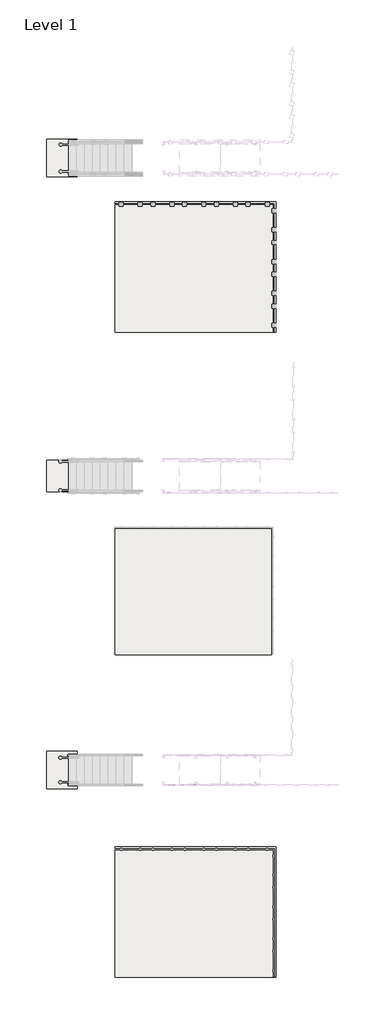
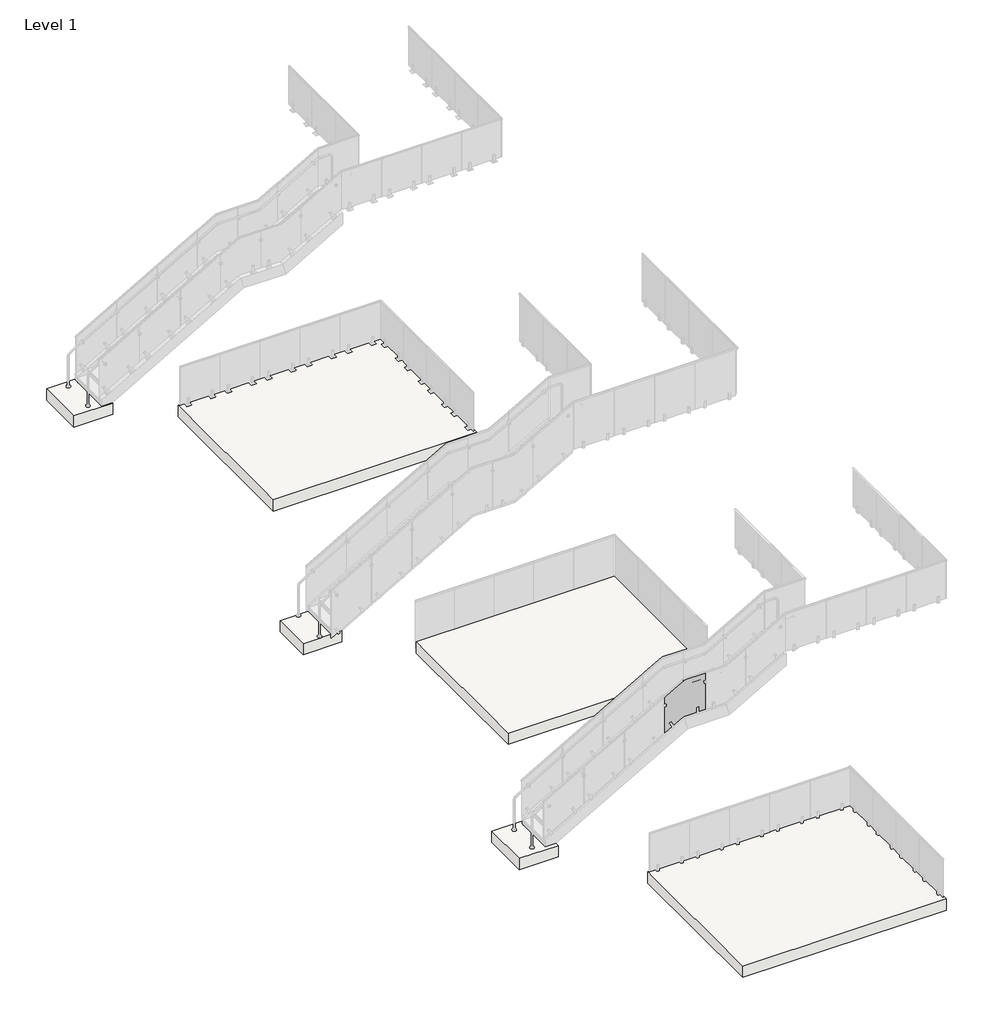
# One storey, part 1 of 17: 6 slabs, 1 railing.
"""IFC4 building model written with IfcOpenShell, lengths in millimetres."""

from ifc_helpers import new_model, si_unit, frame, origin, place, context, project, spatial, polyline, outline, extrude, transform, mapped, element, save
from components import standard_glass_72de46f0

model = new_model("IFC4")

# Units and contexts
model_context = context("Model", 3, world=origin())
ifc_project = project(units=[si_unit("LENGTHUNIT", "METRE", prefix="MILLI")], contexts=[model_context])

# Site, building, storey
site = spatial("IfcSite", under=ifc_project)
building = spatial("IfcBuilding", under=site)
storey = spatial("IfcBuildingStorey", under=building, Name="Level 1", Elevation=0.0)

# Railing
placement = place(None, origin())
standard_glass_shape = standard_glass_72de46f0(model_context)
element("IfcRailing", 1, ObjectType="Baluster-Landing-Panel-VIVA-VISIO-Lower : Standard_Glass", at=placement, inside=storey, context=model_context, shape_type="MappedRepresentation", body=[
    mapped(standard_glass_shape, transform((27377.2201997, -22084.5992549, 2177.1428571), x_axis=(0.0, 1.0, 0.0), y_axis=(-1.0, 0.0, 0.0), z_axis=(0.0, 0.0, 1.0))),
])

# Slabs
element("IfcSlab", 2, ObjectType="Generic - 12\"", at=placement, inside=storey, context=model_context, shape_type="SweptSolid", body=[
    extrude(outline(polyline([(24580.4449345, -2511.9703293), (23589.8449345, -2511.9703293), (23589.8449345, -1306.1531804), (24580.4449345, -1306.1531804), (24580.4449345, -2511.9703293)])), frame((0.0, 0.0, -301.9552), z_axis=(0.0, 0.0, 1.0), x_axis=(1.0, 0.0, 0.0)), (0.0, 0.0, 1.0), 301.9552),
])
element("IfcSlab", 3, ObjectType="Generic - 12\"", at=placement, inside=storey, context=model_context, shape_type="SweptSolid", body=[
    extrude(outline(polyline([(30971.3462541, -7506.8783877), (25789.7462541, -7506.8783877), (25789.7462541, -3315.8783877), (30971.3462541, -3315.8783877), (30971.3462541, -7506.8783877)])), frame((0.0, 0.0, -301.9552), z_axis=(0.0, 0.0, 1.0), x_axis=(1.0, 0.0, 0.0)), (0.0, 0.0, 1.0), 301.9552),
])
element("IfcSlab", 4, ObjectType="Generic - 12\"", at=placement, inside=storey, context=model_context, shape_type="SweptSolid", body=[
    extrude(outline(polyline([(24580.4449345, -12627.8617549), (23589.8449345, -12627.8617549), (23589.8449345, -11611.8617549), (24580.4449345, -11611.8617549), (24580.4449345, -12627.8617549)])), frame((0.0, 0.0, -301.9552), z_axis=(0.0, 0.0, 1.0), x_axis=(1.0, 0.0, 0.0)), (0.0, 0.0, 1.0), 301.9552),
])
element("IfcSlab", 5, ObjectType="Generic - 12\"", at=placement, inside=storey, context=model_context, shape_type="SweptSolid", body=[
    extrude(outline(polyline([(30830.4459111, -17870.0783877), (25789.7462541, -17870.0783877), (25789.7462541, -13821.4186699), (30830.4459111, -13821.4186699), (30830.4459111, -17870.0783877)])), frame((0.0, 0.0, -301.9552), z_axis=(0.0, 0.0, 1.0), x_axis=(1.0, 0.0, 0.0)), (0.0, 0.0, 1.0), 301.9552),
])
element("IfcSlab", 6, ObjectType="Generic - 12\"", at=placement, inside=storey, context=model_context, shape_type="SweptSolid", body=[
    extrude(outline(polyline([(24580.4449345, -22171.5703293), (23589.8449345, -22171.5703293), (23589.8449345, -20965.7531804), (24580.4449345, -20965.7531804), (24580.4449345, -22171.5703293)])), frame((0.0, 0.0, -301.9552), z_axis=(0.0, 0.0, 1.0), x_axis=(1.0, 0.0, 0.0)), (0.0, 0.0, 1.0), 301.9552),
])
element("IfcSlab", 7, ObjectType="Generic - 12\"", at=placement, inside=storey, context=model_context, shape_type="SweptSolid", body=[
    extrude(outline(polyline([(30971.3462541, -28233.2783877), (25789.7462541, -28233.2783877), (25789.7462541, -24042.2783877), (30971.3462541, -24042.2783877), (30971.3462541, -28233.2783877)])), frame((0.0, 0.0, -301.9552), z_axis=(0.0, 0.0, 1.0), x_axis=(1.0, 0.0, 0.0)), (0.0, 0.0, 1.0), 301.9552),
])

save(model, "model.ifc")
